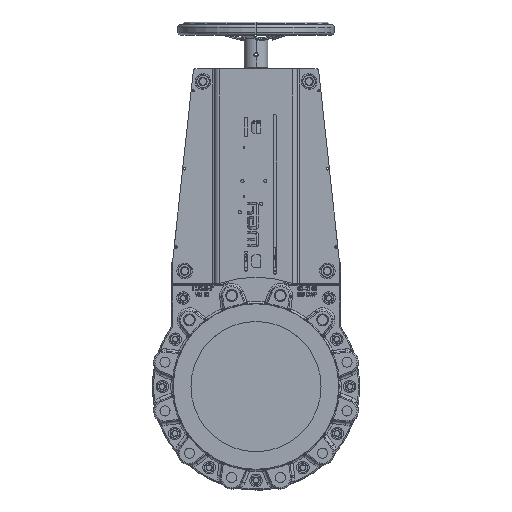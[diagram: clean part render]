
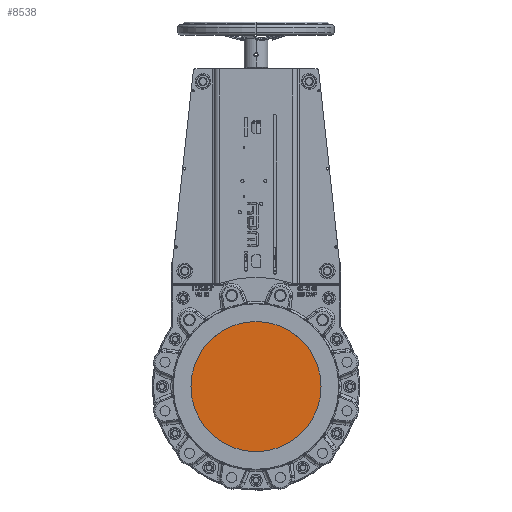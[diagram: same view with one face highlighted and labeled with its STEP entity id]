
A CAD part, top view. The second image highlights one B-rep face of the part: STEP entity #8538.
In plain terms, the highlighted planar face has unit normal (0, 0, 1).
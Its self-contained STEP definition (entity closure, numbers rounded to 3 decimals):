
#8538 = ADVANCED_FACE ( 'NONE', ( #122003 ), #34442, .F. ) ;
#10548 = ORIENTED_EDGE ( 'NONE', *, *, #81140, .T. ) ;
#22656 = AXIS2_PLACEMENT_3D ( 'NONE', #109962, #46750, #120494 ) ;
#26501 = CARTESIAN_POINT ( 'NONE',  ( 0., 0., -0.25 ) ) ;
#27876 = EDGE_LOOP ( 'NONE', ( #10548, #59049 ) ) ;
#31483 = VERTEX_POINT ( 'NONE', #34475 ) ;
#34151 = CARTESIAN_POINT ( 'NONE',  ( 0., 87., -0.25 ) ) ;
#34442 = PLANE ( 'NONE',  #96240 ) ;
#34475 = CARTESIAN_POINT ( 'NONE',  ( 125., 0., -0.25 ) ) ;
#37014 = DIRECTION ( 'NONE',  ( -1., 0., 0. ) ) ;
#45727 = VERTEX_POINT ( 'NONE', #131730 ) ;
#46750 = DIRECTION ( 'NONE',  ( 0., 0., 1. ) ) ;
#59049 = ORIENTED_EDGE ( 'NONE', *, *, #81179, .T. ) ;
#65116 = AXIS2_PLACEMENT_3D ( 'NONE', #26501, #100385, #37014 ) ;
#81140 = EDGE_CURVE ( 'NONE', #31483, #45727, #109137, .T. ) ;
#81179 = EDGE_CURVE ( 'NONE', #45727, #31483, #133738, .T. ) ;
#96240 = AXIS2_PLACEMENT_3D ( 'NONE', #34151, #136802, #136497 ) ;
#100385 = DIRECTION ( 'NONE',  ( 0., 0., 1. ) ) ;
#109137 = CIRCLE ( 'NONE', #22656, 125. ) ;
#109962 = CARTESIAN_POINT ( 'NONE',  ( 0., 0., -0.25 ) ) ;
#120494 = DIRECTION ( 'NONE',  ( -1., 0., 0. ) ) ;
#122003 = FACE_OUTER_BOUND ( 'NONE', #27876, .T. ) ;
#131730 = CARTESIAN_POINT ( 'NONE',  ( -125., 0., -0.25 ) ) ;
#133738 = CIRCLE ( 'NONE', #65116, 125. ) ;
#136497 = DIRECTION ( 'NONE',  ( -1., 0., 0. ) ) ;
#136802 = DIRECTION ( 'NONE',  ( 0., 0., -1. ) ) ;
